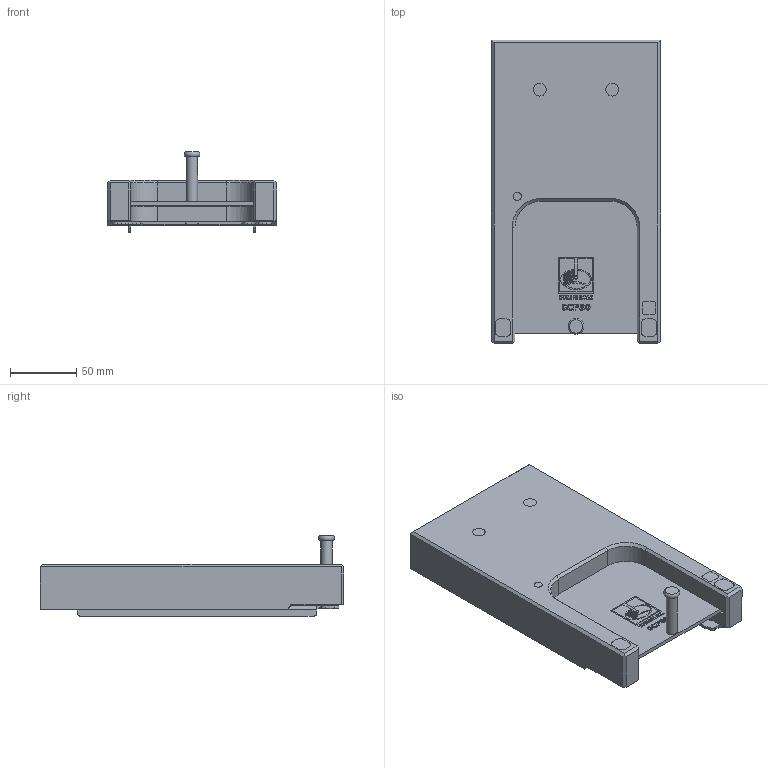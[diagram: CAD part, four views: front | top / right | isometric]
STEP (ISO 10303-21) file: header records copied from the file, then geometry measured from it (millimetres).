
FILE_DESCRIPTION(/* description */ (''),/* implementation_level */ '2;1');
FILE_NAME(/* name */ 'LA-2238-0015#-D.stp',/* time_stamp */ '2012-09-07T09:48:09+01:00',/* author */ (''),/* organization */ (''),/* preprocessor_version */ 'ST-DEVELOPER v11',/* originating_system */ 'SIEMENS PLM Software NX 7.5',/* authorisation */ '');
FILE_SCHEMA (('AUTOMOTIVE_DESIGN { 1 0 10303 214 1 1 1 1 }'));
Length unit declared in the file: millimetre
Products named in the file (1): rt13371Ayuyk
Bounding box: 128 x 229.7 x 61.2 mm (x, y, z)
Volume: 661532.2 mm3; surface area: 128060.6 mm2
Topology: 2 solids, 2 shells, 159 faces, 550 edges, 434 vertices
Faces by surface type: plane 94, bspline 31, cylinder 31, cone 2, torus 1
Full cylindrical faces by diameter (mm): 8.5 x1
Entity records: 7647 total; most frequent: CARTESIAN_POINT 2119, ORIENTED_EDGE 1094, DIRECTION 615, EDGE_CURVE 547, VERTEX_POINT 433, B_SPLINE_CURVE_WITH_KNOTS 257, LINE 223, VECTOR 223
